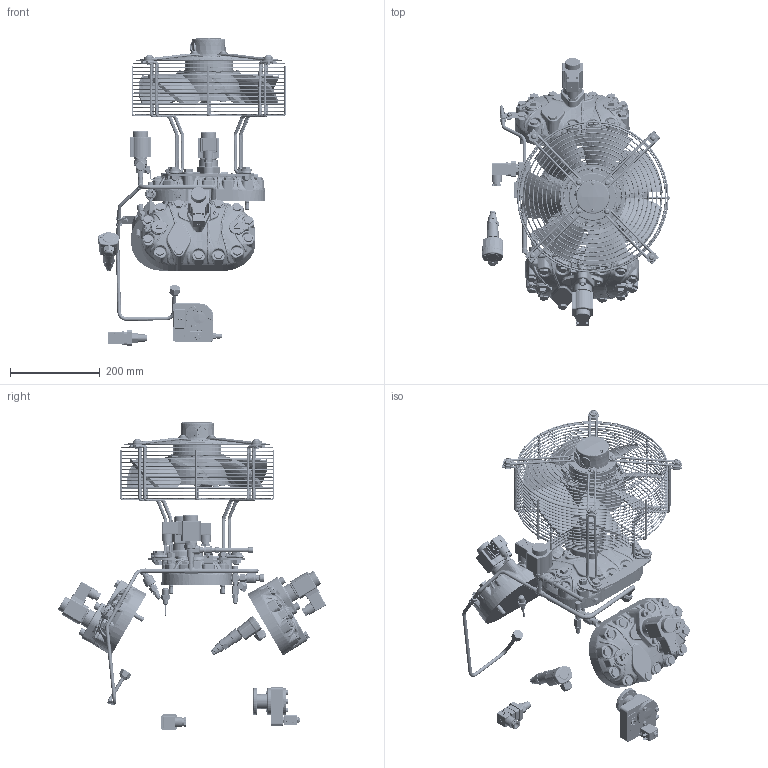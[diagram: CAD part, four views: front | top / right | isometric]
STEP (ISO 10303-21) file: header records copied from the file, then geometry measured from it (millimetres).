
FILE_DESCRIPTION(/* description */ (''),/* implementation_level */ '2;1');
FILE_NAME(/* name */ '6JE-6HE-6GE-6FE-OPTION.stp',/* time_stamp */ '2023-12-12T10:07:18+01:00',/* author */ (''),/* organization */ (''),/* preprocessor_version */ 'ST-DEVELOPER v19.3',/* originating_system */ 'SIEMENS PLM Software NX2212.3001',/* authorisation */ '');
FILE_SCHEMA (('AUTOMOTIVE_DESIGN { 1 0 10303 214 3 1 1 1 }'));
Products named in the file (11): ADDITIONAL-FAN; KIT-PRESSURE-SENSORS-HD-ND; OIL-LEVEL-MONITRG-ADPTR-OLM-IQ; OIL-PRESS-CUT-OUT-DELTAP-2; CYL-HEAD-SU-W-MUFF-PTC; CYLINDER-HEAD-W-CYL-4J-6F; CYLINDER-HEAD-A-CR-CYL-D65-KPL; INJECTION-VALVE-FOR-CIC-BE6; CRANKCASE-HEATER-220V-140W; DIP-BUSH-140W; 6JE-6HE-6GE-6FE-OPTION
Assembly tree (14 placements, depth 2):
  6JE-6HE-6GE-6FE-OPTION
    DIP-BUSH-140W
    CRANKCASE-HEATER-220V-140W
    INJECTION-VALVE-FOR-CIC-BE6
    CYLINDER-HEAD-A-CR-CYL-D65-KPL  x3
    CYLINDER-HEAD-W-CYL-4J-6F  x3
    CYL-HEAD-SU-W-MUFF-PTC
    OIL-PRESS-CUT-OUT-DELTAP-2
    OIL-LEVEL-MONITRG-ADPTR-OLM-IQ
    KIT-PRESSURE-SENSORS-HD-ND
    ADDITIONAL-FAN
Bounding box: 418.71 x 596.09 x 685.56 mm (x, y, z)
Volume: 16000039.8 mm3; surface area: 1741056.2 mm2
Topology: 16 solids, 98 shells, 18293 faces, 45676 edges, 26864 vertices
Faces by surface type: bspline 7040, plane 4576, cylinder 2680, cone 1510, torus 1294, extrusion 674, sphere 519
Full cylindrical faces by diameter (mm): 1.5 x4, 1.8 x3, 2.5 x1, 3 x5, 3.2 x1, 3.5 x3, 4 x1, 4.351 x1, 4.9 x1, 5 x2, 5.795 x4, 6 x5, 6.2 x1, 6.25 x4, 6.4 x4, 6.5 x1, 6.6 x2, 6.9 x3, 7 x14, 7.2 x3, 7.7 x8, 7.9 x3, 8 x27, 8.16 x1, 8.4 x3, 8.9 x2, 9 x2, 9.5 x4, 9.8 x1, 9.838 x20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
Entity records: 458247 total; most frequent: CARTESIAN_POINT 221742, ORIENTED_EDGE 48564, DIRECTION 35288, EDGE_CURVE 24282, VERTEX_POINT 15021, AXIS2_PLACEMENT_3D 14148, EDGE_LOOP 11196, B_SPLINE_CURVE_WITH_KNOTS 9962
